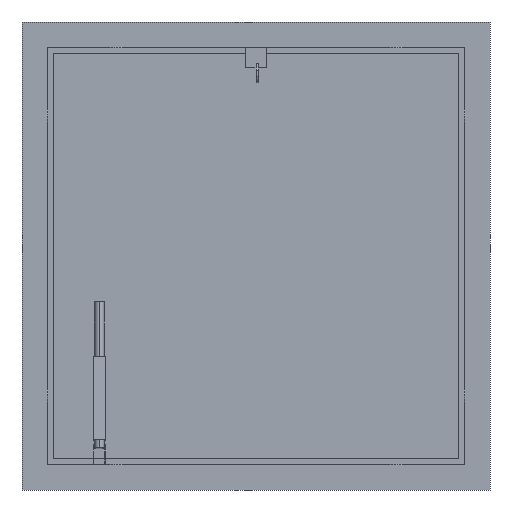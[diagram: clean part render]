
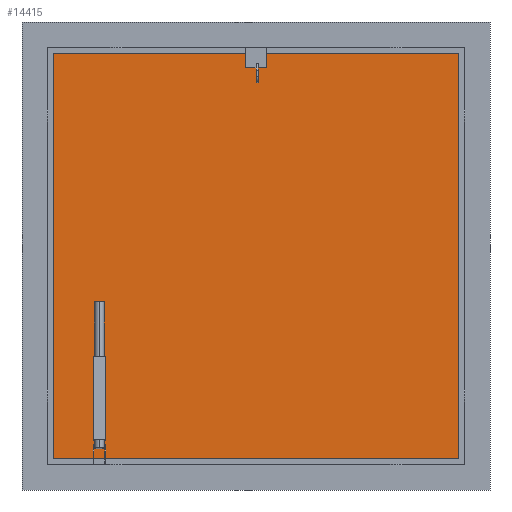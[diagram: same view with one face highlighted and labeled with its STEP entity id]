
A CAD part, front view. The second image highlights one B-rep face of the part: STEP entity #14415.
In plain terms, the highlighted planar face has unit normal (0, -1, 0).
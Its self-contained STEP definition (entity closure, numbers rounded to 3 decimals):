
#5834=DIRECTION('',(0.,0.,-1.));
#5835=VECTOR('',#5834,1048.);
#5836=CARTESIAN_POINT('',(524.,74.,515.));
#5837=LINE('',#5836,#5835);
#5842=DIRECTION('',(0.,0.,-1.));
#5843=VECTOR('',#5842,30.);
#5844=CARTESIAN_POINT('',(0.,74.,445.));
#5845=LINE('',#5844,#5843);
#5846=DIRECTION('',(1.,0.,0.));
#5847=VECTOR('',#5846,5.);
#5848=CARTESIAN_POINT('',(0.,74.,415.));
#5849=LINE('',#5848,#5847);
#5850=DIRECTION('',(0.,0.,-1.));
#5851=VECTOR('',#5850,30.);
#5852=CARTESIAN_POINT('',(5.,74.,445.));
#5853=LINE('',#5852,#5851);
#5854=DIRECTION('',(1.,0.,0.));
#5855=VECTOR('',#5854,5.);
#5856=CARTESIAN_POINT('',(0.,74.,445.));
#5857=LINE('',#5856,#5855);
#5858=DIRECTION('',(-1.,0.,0.));
#5859=VECTOR('',#5858,1048.);
#5860=CARTESIAN_POINT('',(524.,74.,-533.));
#5861=LINE('',#5860,#5859);
#5866=DIRECTION('',(0.,0.,1.));
#5867=VECTOR('',#5866,1048.);
#5868=CARTESIAN_POINT('',(-524.,74.,-533.));
#5869=LINE('',#5868,#5867);
#5874=DIRECTION('',(1.,0.,0.));
#5875=VECTOR('',#5874,1048.);
#5876=CARTESIAN_POINT('',(-524.,74.,515.));
#5877=LINE('',#5876,#5875);
#11345=CARTESIAN_POINT('',(524.,74.,515.));
#11346=CARTESIAN_POINT('',(524.,74.,-533.));
#11347=VERTEX_POINT('',#11345);
#11348=VERTEX_POINT('',#11346);
#11349=CARTESIAN_POINT('',(-524.,74.,-533.));
#11350=VERTEX_POINT('',#11349);
#11351=CARTESIAN_POINT('',(-524.,74.,515.));
#11352=VERTEX_POINT('',#11351);
#11369=CARTESIAN_POINT('',(0.,74.,445.));
#11370=VERTEX_POINT('',#11369);
#11372=CARTESIAN_POINT('',(0.,74.,415.));
#11374=VERTEX_POINT('',#11372);
#11375=CARTESIAN_POINT('',(5.,74.,445.));
#11376=VERTEX_POINT('',#11375);
#11378=CARTESIAN_POINT('',(5.,74.,415.));
#11380=VERTEX_POINT('',#11378);
#14391=CARTESIAN_POINT('',(0.,74.,0.));
#14392=DIRECTION('',(0.,1.,0.));
#14393=DIRECTION('',(1.,0.,0.));
#14394=AXIS2_PLACEMENT_3D('',#14391,#14392,#14393);
#14395=PLANE('',#14394);
#14396=ORIENTED_EDGE('',*,*,#14381,.T.);
#14398=ORIENTED_EDGE('',*,*,#14397,.T.);
#14400=ORIENTED_EDGE('',*,*,#14399,.T.);
#14402=ORIENTED_EDGE('',*,*,#14401,.T.);
#14403=EDGE_LOOP('',(#14396,#14398,#14400,#14402));
#14404=FACE_OUTER_BOUND('',#14403,.F.);
#14406=ORIENTED_EDGE('',*,*,#14405,.T.);
#14408=ORIENTED_EDGE('',*,*,#14407,.T.);
#14410=ORIENTED_EDGE('',*,*,#14409,.F.);
#14412=ORIENTED_EDGE('',*,*,#14411,.F.);
#14413=EDGE_LOOP('',(#14406,#14408,#14410,#14412));
#14414=FACE_BOUND('',#14413,.F.);
#14381=EDGE_CURVE('',#11347,#11348,#5837,.T.);
#14397=EDGE_CURVE('',#11348,#11350,#5861,.T.);
#14399=EDGE_CURVE('',#11350,#11352,#5869,.T.);
#14401=EDGE_CURVE('',#11352,#11347,#5877,.T.);
#14405=EDGE_CURVE('',#11370,#11374,#5845,.T.);
#14407=EDGE_CURVE('',#11374,#11380,#5849,.T.);
#14409=EDGE_CURVE('',#11376,#11380,#5853,.T.);
#14411=EDGE_CURVE('',#11370,#11376,#5857,.T.);
#14415=ADVANCED_FACE('',(#14404,#14414),#14395,.F.);
